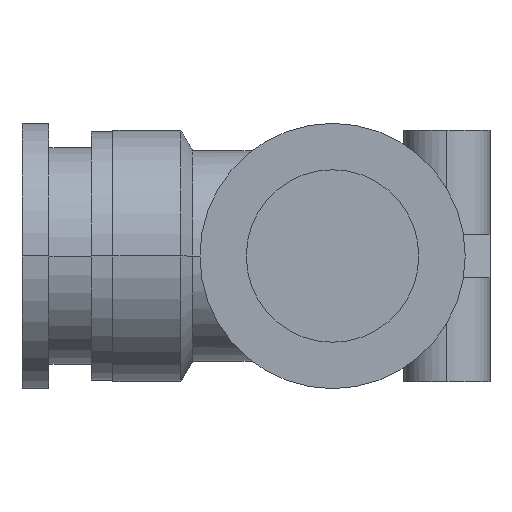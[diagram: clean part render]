
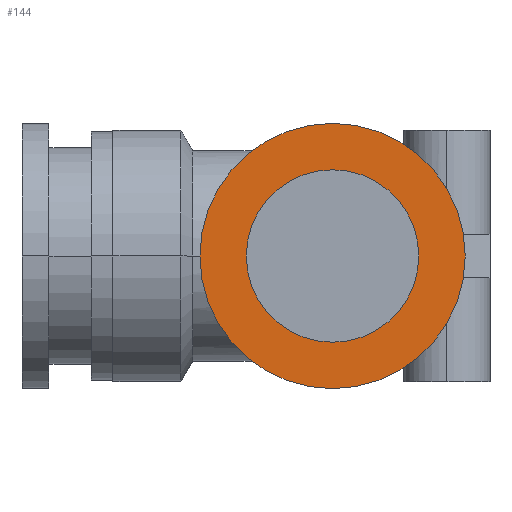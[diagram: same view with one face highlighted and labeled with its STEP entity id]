
A CAD part, left-side view. The second image highlights one B-rep face of the part: STEP entity #144.
In plain terms, the highlighted planar face has unit normal (-1, 0, 0).
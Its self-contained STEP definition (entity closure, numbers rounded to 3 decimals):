
#144 = ADVANCED_FACE( '', ( #297, #298 ), #299, .T. );
#297 = FACE_BOUND( '', #451, .T. );
#298 = FACE_OUTER_BOUND( '', #452, .T. );
#299 = PLANE( '', #453 );
#451 = EDGE_LOOP( '', ( #973, #974 ) );
#452 = EDGE_LOOP( '', ( #975, #976 ) );
#453 = AXIS2_PLACEMENT_3D( '', #977, #978, #979 );
#973 = ORIENTED_EDGE( '', *, *, #1077, .T. );
#974 = ORIENTED_EDGE( '', *, *, #1073, .T. );
#975 = ORIENTED_EDGE( '', *, *, #983, .T. );
#976 = ORIENTED_EDGE( '', *, *, #1137, .T. );
#977 = CARTESIAN_POINT( '', ( -28.8, 6.15, 0. ) );
#978 = DIRECTION( '', ( -1., 0., 0. ) );
#979 = DIRECTION( '', ( 0., 1., 0. ) );
#983 = EDGE_CURVE( '', #1139, #1143, #1145, .T. );
#1073 = EDGE_CURVE( '', #1318, #1315, #1319, .T. );
#1077 = EDGE_CURVE( '', #1315, #1318, #1324, .T. );
#1137 = EDGE_CURVE( '', #1143, #1139, #1397, .T. );
#1139 = VERTEX_POINT( '', #1399 );
#1143 = VERTEX_POINT( '', #1404 );
#1145 = CIRCLE( '', #1407, 12.3 );
#1315 = VERTEX_POINT( '', #1672 );
#1318 = VERTEX_POINT( '', #1676 );
#1319 = CIRCLE( '', #1677, 8. );
#1324 = CIRCLE( '', #1683, 8. );
#1397 = CIRCLE( '', #1821, 12.3 );
#1399 = CARTESIAN_POINT( '', ( -28.8, 12.3, 0. ) );
#1404 = CARTESIAN_POINT( '', ( -28.8, -12.3, 0. ) );
#1407 = AXIS2_PLACEMENT_3D( '', #1827, #1828, #1829 );
#1672 = CARTESIAN_POINT( '', ( -28.8, 8., 0. ) );
#1676 = CARTESIAN_POINT( '', ( -28.8, -8., 0. ) );
#1677 = AXIS2_PLACEMENT_3D( '', #1998, #1999, #2000 );
#1683 = AXIS2_PLACEMENT_3D( '', #2008, #2009, #2010 );
#1821 = AXIS2_PLACEMENT_3D( '', #2151, #2152, #2153 );
#1827 = CARTESIAN_POINT( '', ( -28.8, 0., 0. ) );
#1828 = DIRECTION( '', ( -1., 0., 0. ) );
#1829 = DIRECTION( '', ( 0., 1., 0. ) );
#1998 = CARTESIAN_POINT( '', ( -28.8, 0., 0. ) );
#1999 = DIRECTION( '', ( 1., 0., 0. ) );
#2000 = DIRECTION( '', ( 0., 1., 0. ) );
#2008 = CARTESIAN_POINT( '', ( -28.8, 0., 0. ) );
#2009 = DIRECTION( '', ( 1., 0., 0. ) );
#2010 = DIRECTION( '', ( 0., 1., 0. ) );
#2151 = CARTESIAN_POINT( '', ( -28.8, 0., 0. ) );
#2152 = DIRECTION( '', ( -1., 0., 0. ) );
#2153 = DIRECTION( '', ( 0., 1., 0. ) );
